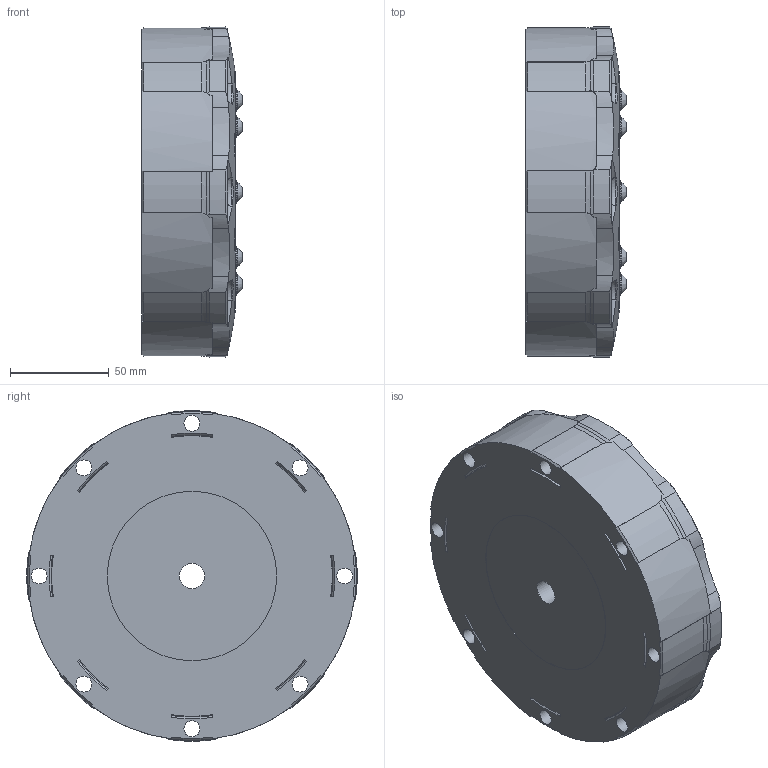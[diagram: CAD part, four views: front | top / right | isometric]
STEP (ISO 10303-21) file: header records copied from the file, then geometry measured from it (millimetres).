
FILE_DESCRIPTION( ( 'Unknown' ), '1' );
FILE_NAME( 'M:/ENG2/CAD/DRAWINGS/Solid Models For Customers (Simplified)/CLUTCHES/TILTON 6553MHG-P.stp', 'Unknown', ( 'Unknown' ), ( 'Unknown' ), 'PSStep 17.0.49', 'Unknown', ' ' );
FILE_SCHEMA( ( 'AUTOMOTIVE_DESIGN { 1 0 10303 214 1 1 1 1 }' ) );
Length unit declared in the file: inch
Products named in the file (1): 1
Bounding box: 50.57 x 166.81 x 166.79 mm (x, y, z)
Volume: 818654.5 mm3; surface area: 128036.4 mm2
Topology: 1 solids, 1 shells, 875 faces, 2484 edges, 1641 vertices
Faces by surface type: cylinder 434, plane 364, cone 42, torus 27, bspline 8
Full cylindrical faces by diameter (mm): 0.508 x8, 4.902 x8, 8.077 x8, 9.169 x8, 11.176 x8, 12.7 x1, 71.095 x1, 85.674 x1, 87.376 x1
Entity records: 36926 total; most frequent: CARTESIAN_POINT 7088, ORIENTED_EDGE 4834, DIRECTION 4756, EDGE_CURVE 2417, AXIS2_PLACEMENT_3D 1783, VERTEX_POINT 1639, LINE 1190, VECTOR 1190
